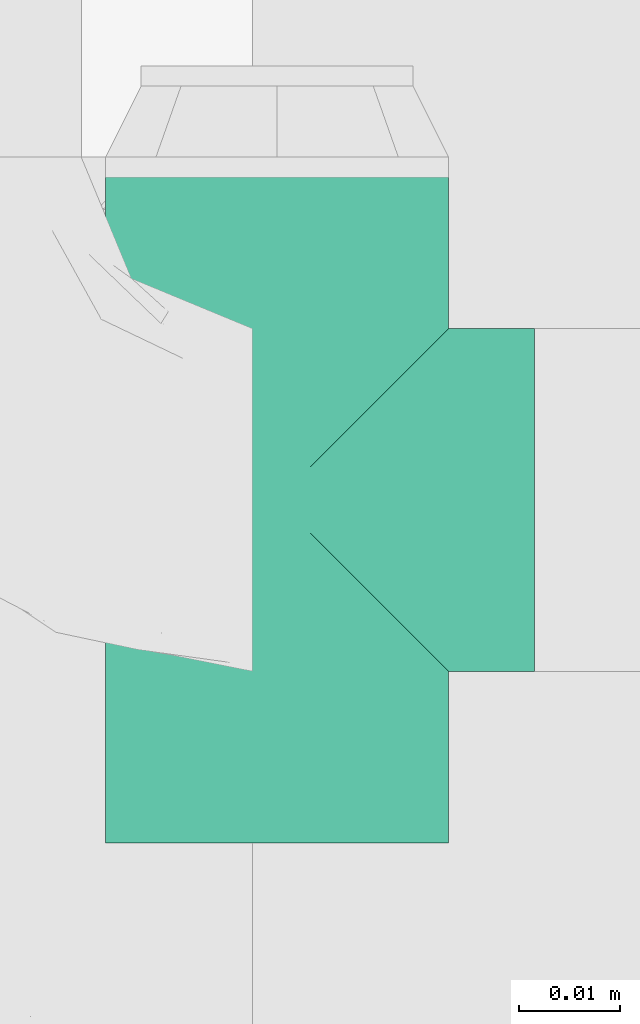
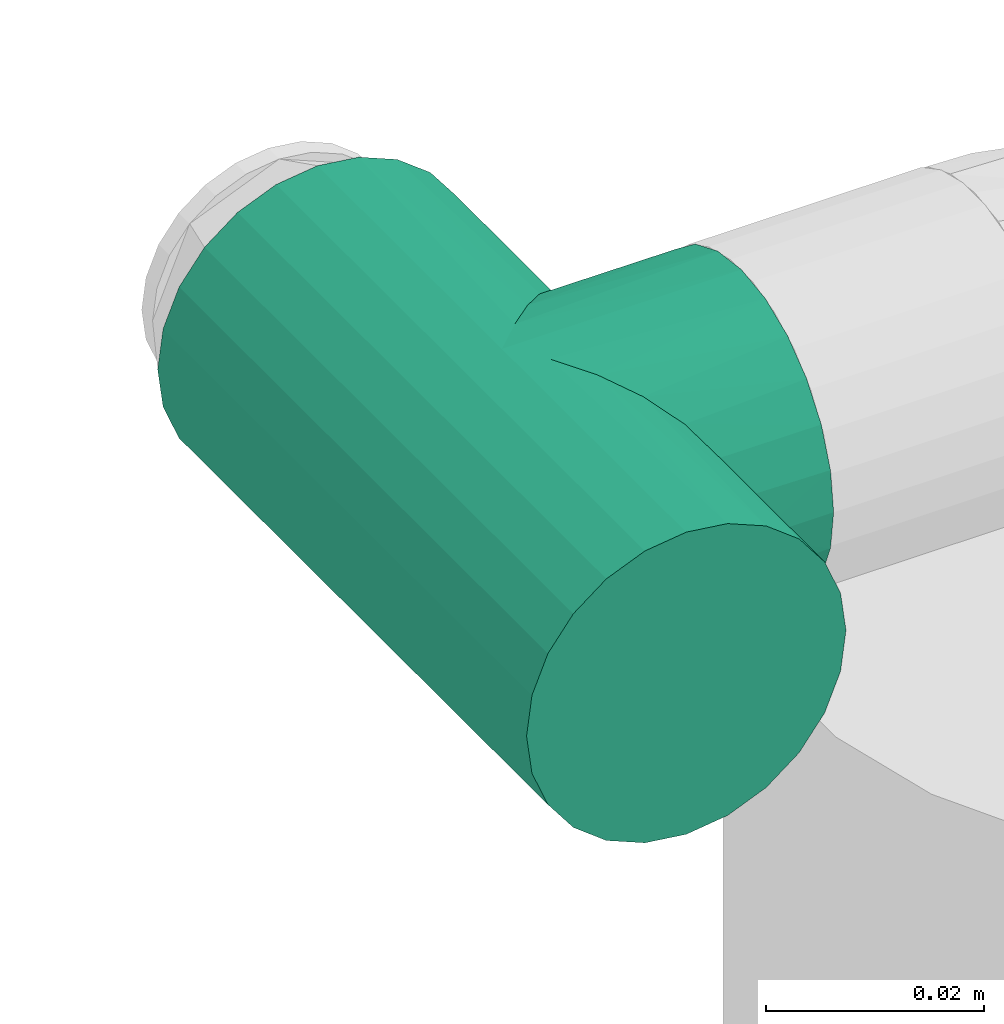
# One storey, part 17 of 17: 1 flow fitting.
"""IFC2X3 building model written with IfcOpenShell, lengths in millimetres."""

from ifc_helpers import new_model, entity, si_unit, converted_unit, derived_unit, direction, frame, origin_with_axes, place, context, subcontext, project, spatial, open_shell, surface_model, source, transform, mapped, type_object, element, save


model = new_model("IFC2X3")

# Units and contexts
model_context = context("Model", 3, precision=0.01, world=frame((0.0, 4.29681676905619e-09, 0.0)), true_north=direction((4.01073788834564e-13, 1.0)))
plan_context = context("Plan", 3, precision=0.01, world=frame((0.0, 4.29681676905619e-09, 0.0)), true_north=direction((4.01073788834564e-13, 1.0)))
body_context = subcontext(model_context, "Body", "Model", "MODEL_VIEW")
ifc_project = project(units=[converted_unit("PLANEANGLEUNIT", "DEGREE", entity("IfcPositiveLengthMeasure", 0.0174532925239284), si_unit("PLANEANGLEUNIT", "RADIAN"), dimensions=[0, 0, 0, 0, 0, 0, 0]), si_unit("AREAUNIT", "SQUARE_METRE"), si_unit("LENGTHUNIT", "METRE", prefix="MILLI"), si_unit("MASSUNIT", "GRAM", prefix="KILO"), si_unit("POWERUNIT", "WATT"), si_unit("PRESSUREUNIT", "PASCAL", prefix="KILO"), si_unit("FORCEUNIT", "NEWTON", prefix="KILO"), si_unit("ELECTRICVOLTAGEUNIT", "VOLT"), si_unit("ELECTRICCURRENTUNIT", "AMPERE"), si_unit("THERMODYNAMICTEMPERATUREUNIT", "DEGREE_CELSIUS"), si_unit("TIMEUNIT", "SECOND"), si_unit("VOLUMEUNIT", "CUBIC_METRE"), derived_unit("LINEARVELOCITYUNIT", [(si_unit("LENGTHUNIT", "METRE"), 1), (si_unit("TIMEUNIT", "SECOND"), -1)]), derived_unit("VOLUMETRICFLOWRATEUNIT", [(si_unit("VOLUMEUNIT", "CUBIC_METRE"), 1), (si_unit("TIMEUNIT", "SECOND"), -1)]), derived_unit("THERMALTRANSMITTANCEUNIT", [(si_unit("POWERUNIT", "WATT"), 1), (si_unit("THERMODYNAMICTEMPERATUREUNIT", "KELVIN"), -1), (si_unit("AREAUNIT", "SQUARE_METRE"), -1)]), derived_unit("SOUNDPRESSUREUNIT", [(si_unit("PRESSUREUNIT", "PASCAL"), 1)])], contexts=[model_context, plan_context])

# Site, building, storey
site_placement = place(None, frame((0.0, -4.29681676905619e-09, 0.0), z_axis=(0.0, 0.0, 1.0), x_axis=(1.0, 0.0, 0.0)))
site = spatial("IfcSite", under=ifc_project, at=site_placement, Name="ENGM", CompositionType="ELEMENT")
building_placement = place(site_placement, frame((0.0, 4.29681676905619e-09, 0.0), z_axis=(0.0, 0.0, 1.0), x_axis=(1.0, 0.0, 0.0)))
building = spatial("IfcBuilding", under=site, at=building_placement, Name="TI", CompositionType="ELEMENT")
storey_placement = place(building_placement, frame((0.0, 0.0, 207370.0), z_axis=(0.0, 0.0, 1.0), x_axis=(1.0, 0.0, 0.0)))
storey = spatial("IfcBuildingStorey", under=building, at=storey_placement, Name="Nivå E", CompositionType="ELEMENT", Elevation=207370.0)

# Flow fitting
pipe_fitting_type = type_object("IfcPipeFittingType", Name="magi_pipe_fe_tee_centric_90_NOR", PredefinedType="JUNCTION")
shared_shape = source(origin_with_axes(), body_context, "Body", "SurfaceModel", [
    surface_model("IfcShellBasedSurfaceModel", [(-33.8, 8.45, -14.63583), (-33.8, 4.37404, -16.32415), (-33.8, 11.9501, -11.9501), (-33.8, -11.9501, -11.9501), (-33.8, -14.63583, -8.45), (-33.8, -8.45, -14.63583), (-33.8, 0.0, -16.9), (-33.8, -4.37404, -16.32415), (-33.8, -4.37404, 16.32415), (-33.8, 0.0, 16.9), (-33.8, -8.45, 14.63583), (-33.8, 8.45, 14.63583), (-33.8, 16.9, 0.0), (-33.8, 16.32415, -4.37404), (-33.8, 16.32415, 4.37404), (-33.8, 14.63583, -8.45), (-33.8, -16.9, 0.0), (-33.8, -16.32415, -4.37404), (-33.8, 14.63583, 8.45), (-33.8, 11.9501, 11.9501), (-33.8, 4.37404, 16.32415), (-33.8, -11.9501, 11.9501), (-33.8, -14.63583, 8.45), (-33.8, -16.32415, 4.37404), (33.8, 4.37404, -16.32415), (33.8, -16.9, 0.0), (33.8, 0.0, -16.9), (33.8, 14.63583, -8.45), (33.8, 8.45, -14.63583), (33.8, 16.32415, -4.37404), (33.8, 11.9501, -11.9501), (33.8, -16.32415, 4.37404), (33.8, -8.45, -14.63583), (33.8, -4.37404, -16.32415), (33.8, -11.9501, -11.9501), (33.8, -14.63583, -8.45), (33.8, -16.32415, -4.37404), (33.8, 16.32415, 4.37404), (33.8, 8.45, 14.63583), (33.8, 14.63583, 8.45), (33.8, 11.9501, 11.9501), (33.8, -8.45, 14.63583), (33.8, 4.37404, 16.32415), (33.8, -14.63583, 8.45), (33.8, -11.9501, 11.9501), (33.8, 0.0, 16.9), (33.8, -4.37404, 16.32415), (33.8, 16.9, 0.0), (16.28698, -16.28698, 4.51047), (16.9, -16.9, 0.0), (14.62704, -14.62704, 8.4652), (9.47213, -9.47213, 13.99602), (12.26343, -12.26343, 11.62834), (-16.9, -16.9, 0.0), (-16.28698, -16.28698, 4.51047), (-14.62704, -14.62704, 8.4652), (-12.26343, -12.26343, 11.62834), (-9.47213, -9.47213, 13.99602), (-6.42894, -6.42894, 15.62942), (6.42894, -6.42894, 15.62942), (3.24522, -3.24522, 16.58549), (0.0, 0.0, 16.9), (-3.24522, -3.24522, 16.58549), (3.24522, -3.24522, -16.58549), (0.0, 0.0, -16.9), (-3.24522, -3.24522, -16.58549), (-6.42894, -6.42894, -15.62942), (6.42894, -6.42894, -15.62942), (9.47213, -9.47213, -13.99602), (12.26343, -12.26343, -11.62834), (14.62704, -14.62704, -8.4652), (16.28698, -16.28698, -4.51047), (-9.47213, -9.47213, -13.99602), (-12.26343, -12.26343, -11.62834), (-16.28698, -16.28698, -4.51047), (-14.62704, -14.62704, -8.4652), (4.37404, -25.35, -16.32415), (-16.9, -25.35, 0.0), (0.0, -25.35, -16.9), (14.63583, -25.35, -8.45), (8.45, -25.35, -14.63583), (16.32415, -25.35, -4.37404), (11.9501, -25.35, -11.9501), (-11.9501, -25.35, -11.9501), (-8.45, -25.35, -14.63583), (-4.37404, -25.35, -16.32415), (-14.63583, -25.35, -8.45), (-16.32415, -25.35, -4.37404), (16.9, -25.35, 0.0), (8.45, -25.35, 14.63583), (16.32415, -25.35, 4.37404), (14.63583, -25.35, 8.45), (-8.45, -25.35, 14.63583), (11.9501, -25.35, 11.9501), (4.37404, -25.35, 16.32415), (-16.32415, -25.35, 4.37404), (-11.9501, -25.35, 11.9501), (-14.63583, -25.35, 8.45), (0.0, -25.35, 16.9), (-4.37404, -25.35, 16.32415)], [open_shell([[[0, 1, 2]], [[3, 4, 5]], [[6, 7, 5]], [[8, 9, 10]], [[10, 9, 11]], [[6, 5, 4]], [[12, 13, 14]], [[1, 6, 13]], [[1, 13, 15]], [[2, 1, 15]], [[16, 13, 6]], [[17, 16, 4]], [[6, 4, 16]], [[16, 18, 13]], [[18, 14, 13]], [[10, 18, 16]], [[18, 10, 11]], [[19, 18, 11]], [[20, 11, 9]], [[21, 10, 22]], [[23, 22, 10]], [[10, 16, 23]], [[24, 25, 26]], [[27, 24, 28]], [[27, 29, 24]], [[27, 28, 30]], [[31, 25, 24]], [[26, 32, 33]], [[26, 34, 32]], [[35, 25, 36]], [[35, 34, 26]], [[25, 35, 26]], [[24, 29, 31]], [[29, 37, 38]], [[38, 37, 39]], [[38, 31, 29]], [[38, 39, 40]], [[41, 38, 42]], [[43, 41, 44]], [[41, 43, 31]], [[41, 45, 46]], [[41, 31, 38]], [[42, 45, 41]], [[29, 47, 37]], [[31, 43, 48]], [[25, 31, 49]], [[49, 31, 48]], [[43, 50, 48]], [[44, 41, 51]], [[50, 43, 52]], [[51, 52, 44]], [[52, 43, 44]], [[53, 54, 23]], [[53, 23, 16]], [[23, 54, 22]], [[54, 55, 22]], [[56, 57, 21]], [[21, 22, 56]], [[21, 57, 10]], [[56, 22, 55]], [[10, 57, 58]], [[51, 41, 59]], [[60, 45, 61]], [[59, 46, 60]], [[46, 59, 41]], [[60, 46, 45]], [[61, 45, 42]], [[39, 37, 14]], [[19, 38, 40]], [[18, 40, 39]], [[42, 38, 11]], [[12, 37, 47]], [[62, 61, 9]], [[62, 8, 58]], [[8, 62, 9]], [[58, 8, 10]], [[61, 20, 9]], [[42, 20, 61]], [[11, 20, 42]], [[11, 38, 19]], [[18, 19, 40]], [[14, 18, 39]], [[37, 12, 14]], [[15, 27, 30]], [[12, 47, 29]], [[30, 28, 0]], [[27, 13, 29]], [[26, 33, 63]], [[26, 64, 24]], [[64, 26, 63]], [[28, 24, 1]], [[64, 1, 24]], [[2, 30, 0]], [[13, 27, 15]], [[15, 30, 2]], [[13, 12, 29]], [[65, 66, 7]], [[6, 1, 64]], [[6, 65, 7]], [[66, 5, 7]], [[1, 0, 28]], [[6, 64, 65]], [[63, 33, 67]], [[32, 34, 68]], [[69, 68, 34]], [[35, 70, 69]], [[69, 34, 35]], [[32, 68, 67]], [[36, 25, 49]], [[36, 71, 35]], [[71, 36, 49]], [[35, 71, 70]], [[72, 5, 66]], [[72, 3, 5]], [[3, 72, 73]], [[3, 73, 4]], [[74, 53, 17]], [[75, 74, 4]], [[74, 17, 4]], [[17, 53, 16]], [[75, 4, 73]], [[32, 67, 33]], [[76, 77, 78]], [[79, 76, 80]], [[79, 81, 76]], [[79, 80, 82]], [[77, 76, 81]], [[78, 83, 84]], [[84, 85, 78]], [[86, 77, 87]], [[83, 78, 86]], [[77, 86, 78]], [[81, 88, 77]], [[89, 88, 90]], [[89, 90, 91]], [[92, 77, 89]], [[89, 91, 93]], [[92, 89, 94]], [[95, 96, 97]], [[96, 95, 92]], [[92, 98, 99]], [[95, 77, 92]], [[94, 98, 92]], [[89, 77, 88]], [[77, 95, 53]], [[54, 53, 95]], [[97, 96, 56]], [[96, 92, 57]], [[95, 97, 54]], [[58, 92, 99]], [[55, 54, 97]], [[56, 55, 97]], [[58, 57, 92]], [[98, 61, 62]], [[58, 99, 62]], [[56, 96, 57]], [[62, 99, 98]], [[94, 60, 98]], [[89, 59, 94]], [[91, 90, 48]], [[52, 93, 91]], [[93, 51, 89]], [[49, 90, 88]], [[59, 60, 94]], [[51, 59, 89]], [[49, 48, 90]], [[50, 52, 91]], [[48, 50, 91]], [[51, 93, 52]], [[98, 60, 61]], [[88, 81, 49]], [[71, 49, 81]], [[79, 82, 69]], [[82, 80, 68]], [[81, 79, 71]], [[67, 80, 76]], [[70, 71, 79]], [[69, 70, 79]], [[67, 68, 80]], [[78, 64, 63]], [[67, 76, 63]], [[69, 82, 68]], [[63, 76, 78]], [[85, 65, 78]], [[84, 66, 85]], [[86, 87, 74]], [[86, 73, 83]], [[72, 84, 83]], [[53, 87, 77]], [[66, 65, 85]], [[72, 66, 84]], [[53, 74, 87]], [[75, 73, 86]], [[74, 75, 86]], [[72, 83, 73]], [[78, 65, 64]]])]),
])
flow_fitting_placement = place(storey_placement, frame((585306.17776, 570723.24678, 3481.39999999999), z_axis=(0.0, 0.0, 1.0), x_axis=(0.0, 1.0, 0.0)))
element("IfcFlowFitting", 1, at=flow_fitting_placement, inside=storey, type_object=pipe_fitting_type, Name="magi_pipe_fe_tee_centric_90_NOR", context=body_context, shape_type="MappedRepresentation", body=[
    mapped(shared_shape, transform((0.0, 0.0, 0.0), scale=1.0)),
])

save(model, "model.ifc")
